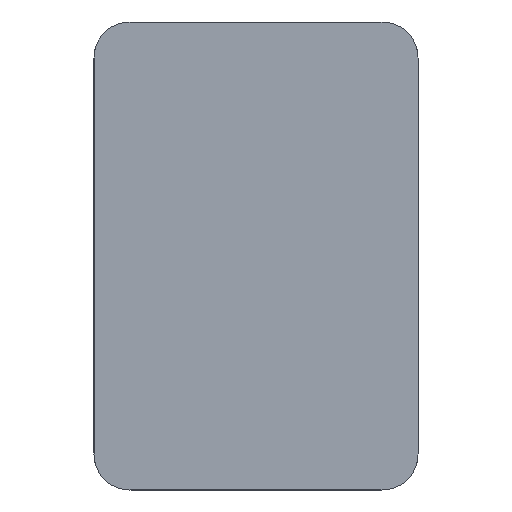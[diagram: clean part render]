
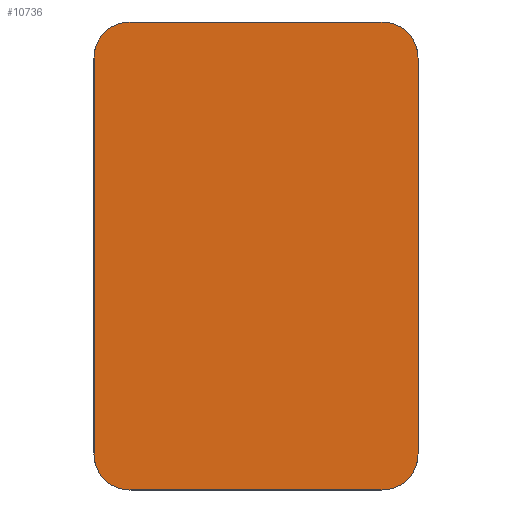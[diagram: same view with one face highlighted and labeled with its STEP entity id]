
A CAD part, left-side view. The second image highlights one B-rep face of the part: STEP entity #10736.
In plain terms, the highlighted planar face has unit normal (-1, 0, 0).
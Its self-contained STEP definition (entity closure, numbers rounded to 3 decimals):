
#1863=LINE('',#21342,#2671);
#1891=LINE('',#21912,#2699);
#1898=LINE('',#21929,#2706);
#1899=LINE('',#21930,#2707);
#2671=VECTOR('',#12438,10.);
#2699=VECTOR('',#12578,10.);
#2706=VECTOR('',#12597,10.);
#2707=VECTOR('',#12598,10.);
#3381=FACE_OUTER_BOUND('',#4024,.T.);
#4024=EDGE_LOOP('',(#9889,#9890,#9891,#9892,#9893,#9894,#9895,#9896));
#4115=CIRCLE('',#11103,5.);
#4121=CIRCLE('',#11112,5.);
#4122=CIRCLE('',#11114,5.);
#4123=CIRCLE('',#11116,5.);
#5117=VERTEX_POINT('',#21339);
#5118=VERTEX_POINT('',#21341);
#5164=VERTEX_POINT('',#21891);
#5172=VERTEX_POINT('',#21911);
#5173=VERTEX_POINT('',#21915);
#5174=VERTEX_POINT('',#21920);
#5175=VERTEX_POINT('',#21922);
#5176=VERTEX_POINT('',#21927);
#6670=EDGE_CURVE('',#5117,#5118,#1863,.T.);
#6739=EDGE_CURVE('',#5118,#5164,#4115,.T.);
#6749=EDGE_CURVE('',#5164,#5172,#1891,.T.);
#6751=EDGE_CURVE('',#5172,#5173,#4121,.T.);
#6755=EDGE_CURVE('',#5174,#5175,#4122,.T.);
#6758=EDGE_CURVE('',#5176,#5117,#4123,.T.);
#6759=EDGE_CURVE('',#5175,#5176,#1898,.T.);
#6760=EDGE_CURVE('',#5173,#5174,#1899,.T.);
#9889=ORIENTED_EDGE('',*,*,#6739,.F.);
#9890=ORIENTED_EDGE('',*,*,#6670,.F.);
#9891=ORIENTED_EDGE('',*,*,#6758,.F.);
#9892=ORIENTED_EDGE('',*,*,#6759,.F.);
#9893=ORIENTED_EDGE('',*,*,#6755,.F.);
#9894=ORIENTED_EDGE('',*,*,#6760,.F.);
#9895=ORIENTED_EDGE('',*,*,#6751,.F.);
#9896=ORIENTED_EDGE('',*,*,#6749,.F.);
#10156=PLANE('',#11115);
#10736=ADVANCED_FACE('',(#3381),#10156,.F.);
#11103=AXIS2_PLACEMENT_3D('',#21892,#12558,#12559);
#11112=AXIS2_PLACEMENT_3D('',#21916,#12582,#12583);
#11114=AXIS2_PLACEMENT_3D('',#21923,#12589,#12590);
#11115=AXIS2_PLACEMENT_3D('',#21926,#12593,#12594);
#11116=AXIS2_PLACEMENT_3D('',#21928,#12595,#12596);
#12438=DIRECTION('',(0.,0.,-1.));
#12558=DIRECTION('center_axis',(1.,0.,0.));
#12559=DIRECTION('ref_axis',(0.,-0.707,-0.707));
#12578=DIRECTION('',(0.,1.,0.));
#12582=DIRECTION('center_axis',(1.,0.,0.));
#12583=DIRECTION('ref_axis',(0.,0.707,-0.707));
#12589=DIRECTION('center_axis',(1.,0.,0.));
#12590=DIRECTION('ref_axis',(0.,0.707,0.707));
#12593=DIRECTION('center_axis',(1.,0.,0.));
#12594=DIRECTION('ref_axis',(0.,1.,0.));
#12595=DIRECTION('center_axis',(1.,0.,0.));
#12596=DIRECTION('ref_axis',(0.,-0.707,0.707));
#12597=DIRECTION('',(0.,-1.,0.));
#12598=DIRECTION('',(0.,0.,1.));
#21339=CARTESIAN_POINT('',(0.,0.,60.));
#21341=CARTESIAN_POINT('',(0.,0.,5.));
#21342=CARTESIAN_POINT('',(0.,0.,65.));
#21891=CARTESIAN_POINT('',(0.,5.,0.));
#21892=CARTESIAN_POINT('Origin',(0.,5.,5.));
#21911=CARTESIAN_POINT('',(0.,40.,0.));
#21912=CARTESIAN_POINT('',(0.,0.,0.));
#21915=CARTESIAN_POINT('',(0.,45.,5.));
#21916=CARTESIAN_POINT('Origin',(0.,40.,5.));
#21920=CARTESIAN_POINT('',(0.,45.,60.));
#21922=CARTESIAN_POINT('',(0.,40.,65.));
#21923=CARTESIAN_POINT('Origin',(0.,40.,60.));
#21926=CARTESIAN_POINT('Origin',(0.,22.5,32.5));
#21927=CARTESIAN_POINT('',(0.,5.,65.));
#21928=CARTESIAN_POINT('Origin',(0.,5.,60.));
#21929=CARTESIAN_POINT('',(0.,45.,65.));
#21930=CARTESIAN_POINT('',(0.,45.,0.));
